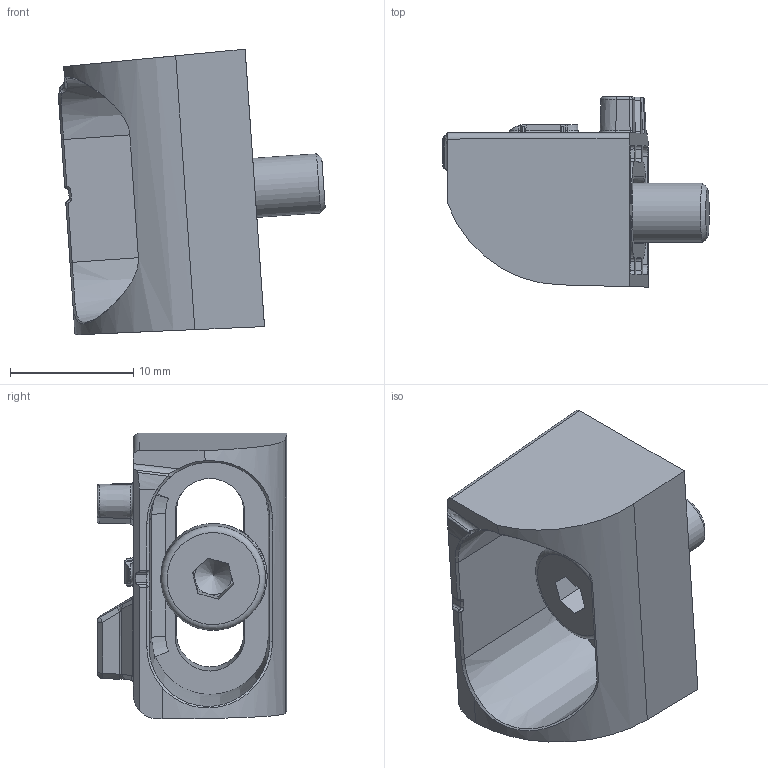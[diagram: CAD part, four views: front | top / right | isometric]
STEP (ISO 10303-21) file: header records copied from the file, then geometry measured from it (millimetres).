
FILE_DESCRIPTION(/* description */ (''),/* implementation_level */ '2;1');
FILE_NAME(/* name */ 'DSD-0657 (SLIM O bracket right side).stp',/* time_stamp */ '2015-03-16T11:26:17+01:00',/* author */ (''),/* organization */ (''),/* preprocessor_version */ 'ST-DEVELOPER v11',/* originating_system */ 'SIEMENS PLM Software NX 7.5',/* authorisation */ '');
FILE_SCHEMA (('AUTOMOTIVE_DESIGN { 1 0 10303 214 1 1 1 1 }'));
Length unit declared in the file: millimetre
Products named in the file (1): AP008235_00
Bounding box: 21.65 x 15.43 x 23.22 mm (x, y, z)
Surface area: 2721.4 mm2 (no closed solid volume)
Topology: 0 solids, 4 shells, 322 faces, 800 edges, 475 vertices
Faces by surface type: plane 115, cylinder 98, bspline 55, cone 30, torus 18, sphere 6
Full cylindrical faces by diameter (mm): 4.826 x1, 5 x1, 5.3 x1, 8.5 x2
Entity records: 10886 total; most frequent: CARTESIAN_POINT 3637, DIRECTION 1487, ORIENTED_EDGE 1483, EDGE_CURVE 759, AXIS2_PLACEMENT_3D 569, VERTEX_POINT 469, EDGE_LOOP 358, LINE 349
